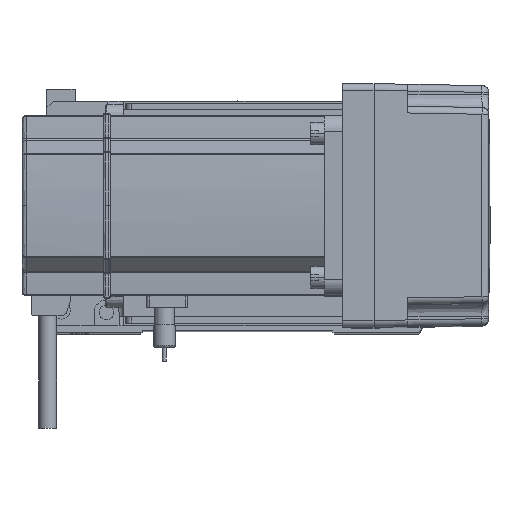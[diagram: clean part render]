
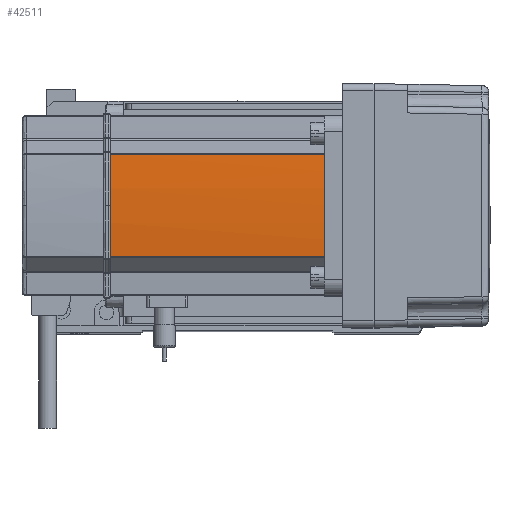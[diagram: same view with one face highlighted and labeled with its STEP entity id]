
A CAD part, top view. The second image highlights one B-rep face of the part: STEP entity #42511.
In plain terms, the highlighted cylindrical face has radius 270 mm (diameter 540 mm), a partial arc.
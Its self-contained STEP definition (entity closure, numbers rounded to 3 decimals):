
#1517 = AXIS2_PLACEMENT_3D ( 'NONE', #23000, #48795, #40095 ) ;
#1553 = DIRECTION ( 'NONE',  ( 1., 0., 0. ) ) ;
#2101 = CARTESIAN_POINT ( 'NONE',  ( 230., 0., 134. ) ) ;
#2656 = VECTOR ( 'NONE', #23318, 1000. ) ;
#2805 = DIRECTION ( 'NONE',  ( 1., 0., 0. ) ) ;
#5387 = CARTESIAN_POINT ( 'NONE',  ( -39.042, 22.724, 39. ) ) ;
#8040 = VERTEX_POINT ( 'NONE', #40787 ) ;
#8069 = CARTESIAN_POINT ( 'NONE',  ( -40., 0., 134. ) ) ;
#8306 = DIRECTION ( 'NONE',  ( 0., 0., -1. ) ) ;
#8476 = ORIENTED_EDGE ( 'NONE', *, *, #11057, .T. ) ;
#9390 = EDGE_CURVE ( 'NONE', #14108, #8040, #32885, .T. ) ;
#9613 = FACE_OUTER_BOUND ( 'NONE', #49551, .T. ) ;
#9759 = EDGE_CURVE ( 'NONE', #8040, #50773, #51046, .T. ) ;
#9855 = ORIENTED_EDGE ( 'NONE', *, *, #9390, .T. ) ;
#11057 = EDGE_CURVE ( 'NONE', #32263, #19554, #34030, .T. ) ;
#11973 = CIRCLE ( 'NONE', #40921, 270. ) ;
#12080 = DIRECTION ( 'NONE',  ( 1., 0., 0. ) ) ;
#14108 = VERTEX_POINT ( 'NONE', #8069 ) ;
#16068 = DIRECTION ( 'NONE',  ( 0., 0., -1. ) ) ;
#16552 = VECTOR ( 'NONE', #40152, 1000. ) ;
#18563 = CARTESIAN_POINT ( 'NONE',  ( -39.042, -22.724, 0. ) ) ;
#19554 = VERTEX_POINT ( 'NONE', #34474 ) ;
#23000 = CARTESIAN_POINT ( 'NONE',  ( 230., 0., 0. ) ) ;
#23318 = DIRECTION ( 'NONE',  ( 0., 0., -1. ) ) ;
#26205 = CIRCLE ( 'NONE', #43588, 270. ) ;
#29525 = CARTESIAN_POINT ( 'NONE',  ( 230., 0., 134. ) ) ;
#31771 = AXIS2_PLACEMENT_3D ( 'NONE', #29525, #8306, #12080 ) ;
#31948 = CARTESIAN_POINT ( 'NONE',  ( -39.042, 22.724, 0. ) ) ;
#32263 = VERTEX_POINT ( 'NONE', #55630 ) ;
#32885 = CIRCLE ( 'NONE', #31771, 270. ) ;
#33278 = EDGE_CURVE ( 'NONE', #19554, #14108, #26205, .T. ) ;
#34030 = LINE ( 'NONE', #18563, #16552 ) ;
#34474 = CARTESIAN_POINT ( 'NONE',  ( -39.042, -22.724, 134. ) ) ;
#36562 = ORIENTED_EDGE ( 'NONE', *, *, #33278, .T. ) ;
#40095 = DIRECTION ( 'NONE',  ( 1., 0., 0. ) ) ;
#40152 = DIRECTION ( 'NONE',  ( 0., 0., 1. ) ) ;
#40649 = EDGE_CURVE ( 'NONE', #32263, #50773, #11973, .T. ) ;
#40787 = CARTESIAN_POINT ( 'NONE',  ( -39.042, 22.724, 134. ) ) ;
#40921 = AXIS2_PLACEMENT_3D ( 'NONE', #54418, #16068, #2805 ) ;
#42511 = ADVANCED_FACE ( 'NONE', ( #9613 ), #50730, .T. ) ;
#43588 = AXIS2_PLACEMENT_3D ( 'NONE', #2101, #53171, #1553 ) ;
#46550 = ORIENTED_EDGE ( 'NONE', *, *, #9759, .T. ) ;
#48795 = DIRECTION ( 'NONE',  ( 0., 0., 1. ) ) ;
#49551 = EDGE_LOOP ( 'NONE', ( #36562, #9855, #46550, #54889, #8476 ) ) ;
#50730 = CYLINDRICAL_SURFACE ( 'NONE', #1517, 270. ) ;
#50773 = VERTEX_POINT ( 'NONE', #5387 ) ;
#51046 = LINE ( 'NONE', #31948, #2656 ) ;
#53171 = DIRECTION ( 'NONE',  ( 0., 0., -1. ) ) ;
#54418 = CARTESIAN_POINT ( 'NONE',  ( 230., 0., 39. ) ) ;
#54889 = ORIENTED_EDGE ( 'NONE', *, *, #40649, .F. ) ;
#55630 = CARTESIAN_POINT ( 'NONE',  ( -39.042, -22.724, 39. ) ) ;
